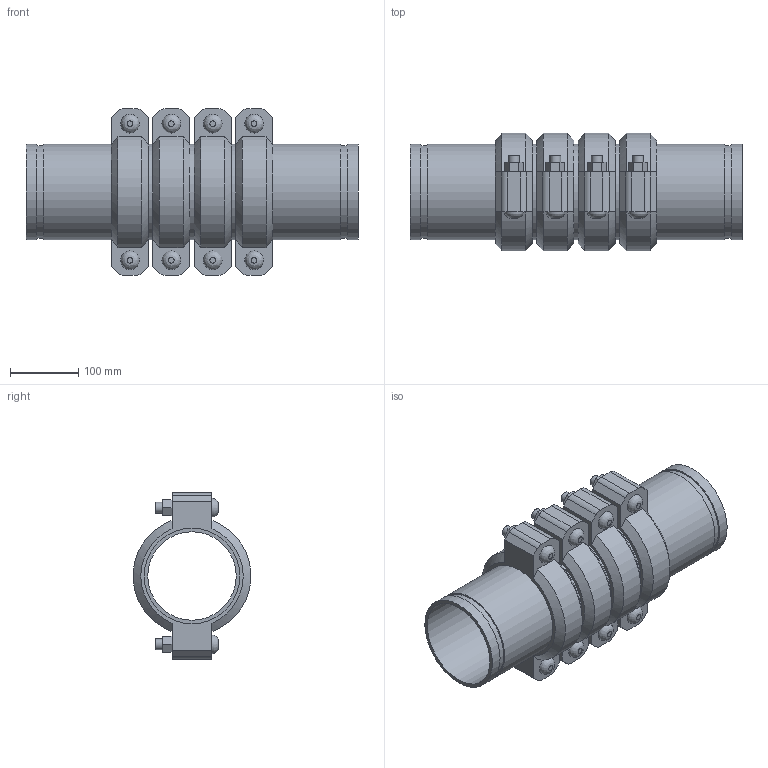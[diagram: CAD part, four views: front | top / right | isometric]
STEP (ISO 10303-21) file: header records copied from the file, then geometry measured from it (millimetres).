
FILE_DESCRIPTION(/* description */ ('VIC EXPANSION JOINT 4 COUPLINGS COMPRESSED STYLE 155 (OGS)','CAx-IF Rec.Pracs.---Representation and Presentation of Product Manufacturing Information (PMI)---4.0---2014-10-13'),/* implementation_level */ '2;1');
FILE_NAME(/* name */ 'C:\Users\kkamble\AppData\Roaming\Autodesk\ApplicationPlugins\Victaulic.Temp\A318\Victaulic_IPS_Expansion Joint_Compressed_4 Couplings_Style 155 (OGS)_05.0 (139.7) (125).stp',/* time_stamp */ '2021-06-27T00:27:45+02:00',/* author */ ('kkamble'),/* organization */ ('Victaulic'),/* preprocessor_version */ 'ST-DEVELOPER v17.2',/* originating_system */ 'Autodesk Inventor 2019',/* authorisation */ '');
FILE_SCHEMA (('AP242_MANAGED_MODEL_BASED_3D_ENGINEERING_MIM_LF { 1 0 10303 442 1 1 4 }'));
Length unit declared in the file: inch
Products named in the file (4): 155-05.0 (139.7); Nipple-05.0 (139.7); Nipple-05.0 (139.7)_1; 075_4_Coup05.0 (139.7)
Assembly tree (9 placements, depth 2):
  155-05.0 (139.7)
    Nipple-05.0 (139.7)  x2
    Nipple-05.0 (139.7)_1  x3
    075_4_Coup05.0 (139.7)  x4
Bounding box: 485.39 x 172.14 x 243.59 mm (x, y, z)
Volume: 3491774.7 mm3; surface area: 840931.9 mm2
Topology: 9 solids, 17 shells, 288 faces, 682 edges, 480 vertices
Faces by surface type: plane 174, cylinder 90, cone 16, bspline 8
Full cylindrical faces by diameter (mm): 15.875 x16, 17.424 x8, 129.388 x5, 133.35 x4, 135.484 x10, 139.7 x23
Entity records: 2794 total; most frequent: CARTESIAN_POINT 493, DIRECTION 461, ORIENTED_EDGE 386, EDGE_CURVE 193, AXIS2_PLACEMENT_3D 184, VERTEX_POINT 138, EDGE_LOOP 107, LINE 93
